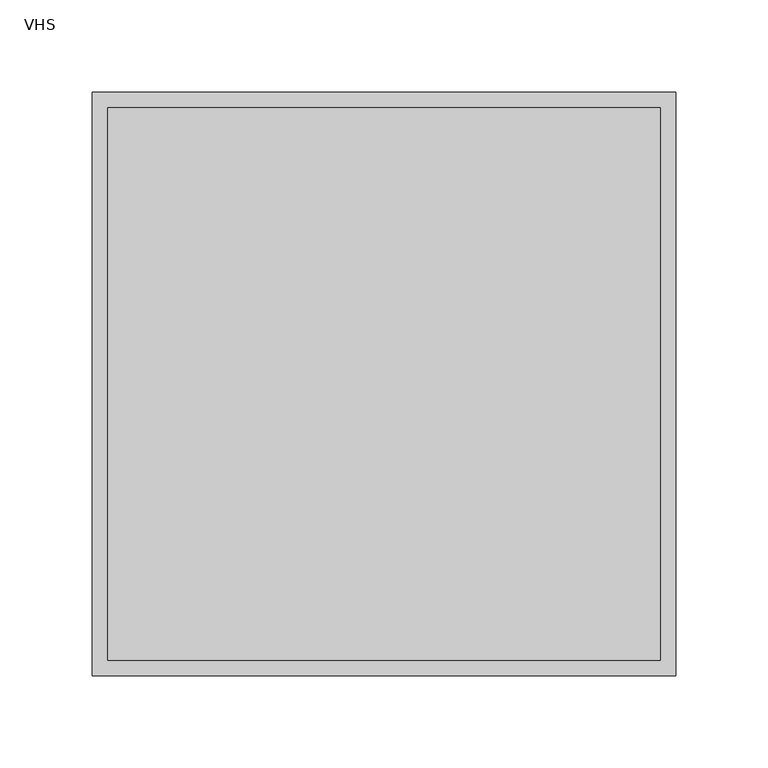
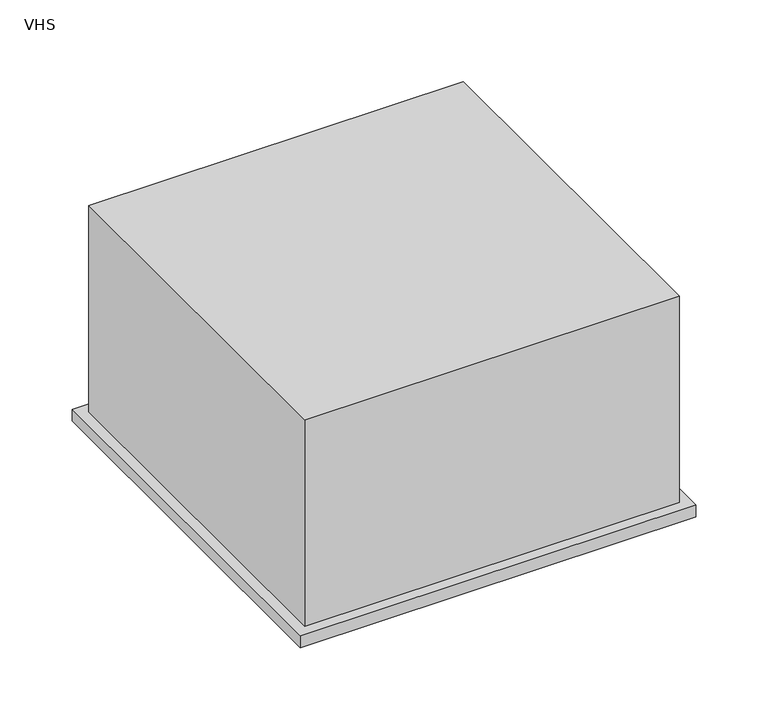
"""IFC4 building model written with IfcOpenShell, lengths in millimetres: air terminal geometry, 031_ユニバーサル形吹出口 : VHS."""

from ifc_helpers import new_model, si_unit, frame, origin, origin_with_axes, place, context, project, spatial, polyline, outline, extrude, source, transform, mapped, element, save


def vhs_14d6a332(model_context):
    return source(origin(), model_context, "Body", "SweptSolid", [
        extrude(outline(polyline([(150.0, 150.0), (150.0, -150.0), (-150.0, -150.0), (-150.0, 150.0), (150.0, 150.0)])), origin_with_axes(), (0.0, 0.0, 1.0), 175.0),
        extrude(outline(polyline([(158.5, -158.5), (-158.5, -158.5), (-158.5, 158.5), (158.5, 158.5), (158.5, -158.5)]), holes=[polyline([(150.0, -150.0), (150.0, 150.0), (-150.0, 150.0), (-150.0, -150.0), (150.0, -150.0)])]), frame((0.0, 0.0, -10.0), z_axis=(0.0, 0.0, 1.0), x_axis=(1.0, 0.0, 0.0)), (0.0, 0.0, 1.0), 10.0),
    ])


if __name__ == "__main__":
    model = new_model("IFC4")
    model_context = context("Model", 3, world=origin())
    ifc_project = project(units=[si_unit("LENGTHUNIT", "METRE", prefix="MILLI")], contexts=[model_context])
    site = spatial("IfcSite", under=ifc_project)
    building = spatial("IfcBuilding", under=site)
    placement = place(None, origin())
    vhs_shape = vhs_14d6a332(model_context)
    element("IfcAirTerminal", 1, ObjectType="031_ユニバーサル形吹出口 : VHS", at=placement, inside=building, context=model_context, shape_type="MappedRepresentation", body=[
        mapped(vhs_shape, transform((0.0, 0.0, 0.0), x_axis=(1.0, 0.0, 0.0), y_axis=(0.0, 1.0, 0.0), z_axis=(0.0, 0.0, 1.0))),
    ])
    save(model, "model.ifc")
